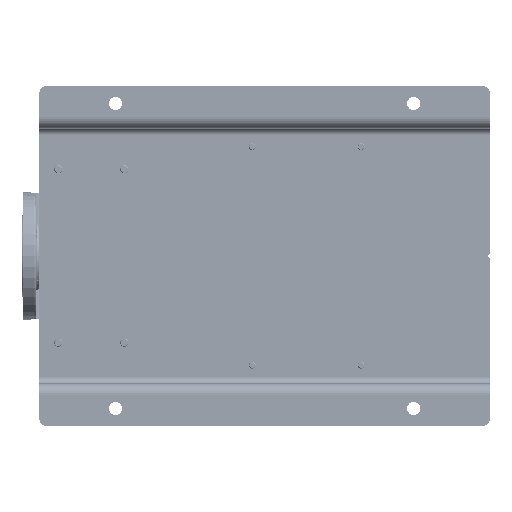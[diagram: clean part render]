
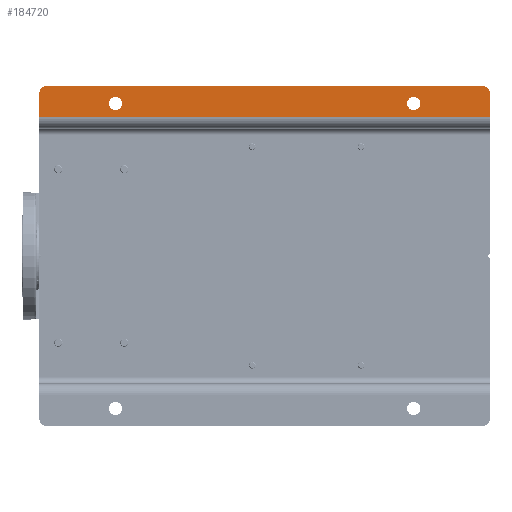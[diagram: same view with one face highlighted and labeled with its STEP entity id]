
A CAD part, front view. The second image highlights one B-rep face of the part: STEP entity #184720.
In plain terms, the highlighted planar face has unit normal (0, -1, 0).
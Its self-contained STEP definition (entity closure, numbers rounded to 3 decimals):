
#373 = DIRECTION ( 'NONE',  ( 0., 0., -1. ) ) ;
#2144 = ORIENTED_EDGE ( 'NONE', *, *, #19099, .T. ) ;
#3478 = CARTESIAN_POINT ( 'NONE',  ( 480., 0., -640. ) ) ;
#5361 = AXIS2_PLACEMENT_3D ( 'NONE', #152611, #7349, #72067 ) ;
#6284 = DIRECTION ( 'NONE',  ( 0., 0., -1. ) ) ;
#7349 = DIRECTION ( 'NONE',  ( 0., 1., 0. ) ) ;
#9344 = ORIENTED_EDGE ( 'NONE', *, *, #35398, .T. ) ;
#10830 = VERTEX_POINT ( 'NONE', #32813 ) ;
#11331 = ORIENTED_EDGE ( 'NONE', *, *, #111582, .T. ) ;
#11628 = ORIENTED_EDGE ( 'NONE', *, *, #128309, .T. ) ;
#12612 = AXIS2_PLACEMENT_3D ( 'NONE', #53446, #119159, #87356 ) ;
#17582 = ORIENTED_EDGE ( 'NONE', *, *, #115669, .T. ) ;
#18237 = CARTESIAN_POINT ( 'NONE',  ( 429., 0., -650. ) ) ;
#19099 = EDGE_CURVE ( 'NONE', #175943, #75369, #171232, .T. ) ;
#19185 = CARTESIAN_POINT ( 'NONE',  ( 429., 0., 0. ) ) ;
#28920 = EDGE_CURVE ( 'NONE', #117556, #168652, #32975, .T. ) ;
#32813 = CARTESIAN_POINT ( 'NONE',  ( 455.5, 0., -110. ) ) ;
#32975 = CIRCLE ( 'NONE', #90490, 10. ) ;
#33249 = CARTESIAN_POINT ( 'NONE',  ( 490., 0., -640. ) ) ;
#35398 = EDGE_CURVE ( 'NONE', #10830, #73870, #137617, .T. ) ;
#36069 = CARTESIAN_POINT ( 'NONE',  ( 465., 0., -110. ) ) ;
#36507 = PLANE ( 'NONE',  #12612 ) ;
#46879 = LINE ( 'NONE', #19185, #73145 ) ;
#47084 = VERTEX_POINT ( 'NONE', #68809 ) ;
#48026 = CARTESIAN_POINT ( 'NONE',  ( 455.5, 0., -540. ) ) ;
#51356 = FACE_BOUND ( 'NONE', #110337, .T. ) ;
#53446 = CARTESIAN_POINT ( 'NONE',  ( 429., 0., -650. ) ) ;
#57017 = CARTESIAN_POINT ( 'NONE',  ( 445., 0., 0. ) ) ;
#58178 = LINE ( 'NONE', #122843, #170916 ) ;
#64977 = LINE ( 'NONE', #18237, #151239 ) ;
#68809 = CARTESIAN_POINT ( 'NONE',  ( 480., 0., -650. ) ) ;
#72067 = DIRECTION ( 'NONE',  ( 0., 0., -1. ) ) ;
#72124 = DIRECTION ( 'NONE',  ( 0., 0., 1. ) ) ;
#72581 = CIRCLE ( 'NONE', #157173, 9.5 ) ;
#73145 = VECTOR ( 'NONE', #112590, 1000. ) ;
#73870 = VERTEX_POINT ( 'NONE', #74809 ) ;
#74809 = CARTESIAN_POINT ( 'NONE',  ( 474.5, 0., -110. ) ) ;
#75369 = VERTEX_POINT ( 'NONE', #48026 ) ;
#80674 = VERTEX_POINT ( 'NONE', #57017 ) ;
#85327 = AXIS2_PLACEMENT_3D ( 'NONE', #36069, #149460, #6284 ) ;
#87356 = DIRECTION ( 'NONE',  ( 0., 0., -1. ) ) ;
#87421 = CARTESIAN_POINT ( 'NONE',  ( 465., 0., -110. ) ) ;
#90490 = AXIS2_PLACEMENT_3D ( 'NONE', #188749, #173881, #109241 ) ;
#94712 = DIRECTION ( 'NONE',  ( 1., 0., 0. ) ) ;
#99325 = ORIENTED_EDGE ( 'NONE', *, *, #151274, .T. ) ;
#102256 = CIRCLE ( 'NONE', #85327, 9.5 ) ;
#108472 = CARTESIAN_POINT ( 'NONE',  ( 445., 0., -650. ) ) ;
#109035 = DIRECTION ( 'NONE',  ( 0., 0., -1. ) ) ;
#109241 = DIRECTION ( 'NONE',  ( 0., 0., -1. ) ) ;
#110337 = EDGE_LOOP ( 'NONE', ( #9344, #17582 ) ) ;
#111582 = EDGE_CURVE ( 'NONE', #47084, #167860, #189911, .T. ) ;
#112590 = DIRECTION ( 'NONE',  ( 1., 0., 0. ) ) ;
#115669 = EDGE_CURVE ( 'NONE', #73870, #10830, #102256, .T. ) ;
#116018 = FACE_OUTER_BOUND ( 'NONE', #156598, .T. ) ;
#116624 = VECTOR ( 'NONE', #72124, 1000. ) ;
#117556 = VERTEX_POINT ( 'NONE', #160597 ) ;
#119159 = DIRECTION ( 'NONE',  ( 0., -1., 0. ) ) ;
#122843 = CARTESIAN_POINT ( 'NONE',  ( 445., 0., -650. ) ) ;
#123564 = EDGE_CURVE ( 'NONE', #80674, #171303, #58178, .T. ) ;
#128309 = EDGE_CURVE ( 'NONE', #171303, #47084, #64977, .T. ) ;
#130650 = ORIENTED_EDGE ( 'NONE', *, *, #28920, .T. ) ;
#130752 = ORIENTED_EDGE ( 'NONE', *, *, #151307, .T. ) ;
#132344 = CARTESIAN_POINT ( 'NONE',  ( 474.5, 0., -540. ) ) ;
#134026 = FACE_BOUND ( 'NONE', #164615, .T. ) ;
#134711 = DIRECTION ( 'NONE',  ( 0., 0., -1. ) ) ;
#137617 = CIRCLE ( 'NONE', #208764, 9.5 ) ;
#149460 = DIRECTION ( 'NONE',  ( 0., 1., 0. ) ) ;
#151239 = VECTOR ( 'NONE', #94712, 1000. ) ;
#151274 = EDGE_CURVE ( 'NONE', #167860, #117556, #152671, .T. ) ;
#151307 = EDGE_CURVE ( 'NONE', #75369, #175943, #72581, .T. ) ;
#152611 = CARTESIAN_POINT ( 'NONE',  ( 465., 0., -540. ) ) ;
#152671 = LINE ( 'NONE', #167524, #116624 ) ;
#156598 = EDGE_LOOP ( 'NONE', ( #189837, #175803, #11628, #11331, #99325, #130650 ) ) ;
#157173 = AXIS2_PLACEMENT_3D ( 'NONE', #199342, #181374, #134711 ) ;
#160597 = CARTESIAN_POINT ( 'NONE',  ( 490., 0., -10. ) ) ;
#164615 = EDGE_LOOP ( 'NONE', ( #130752, #2144 ) ) ;
#167524 = CARTESIAN_POINT ( 'NONE',  ( 490., 0., -650. ) ) ;
#167860 = VERTEX_POINT ( 'NONE', #33249 ) ;
#167955 = DIRECTION ( 'NONE',  ( 0., 0., -1. ) ) ;
#168652 = VERTEX_POINT ( 'NONE', #169338 ) ;
#169338 = CARTESIAN_POINT ( 'NONE',  ( 480., 0., 0. ) ) ;
#170916 = VECTOR ( 'NONE', #109035, 1000. ) ;
#171232 = CIRCLE ( 'NONE', #5361, 9.5 ) ;
#171303 = VERTEX_POINT ( 'NONE', #108472 ) ;
#173881 = DIRECTION ( 'NONE',  ( 0., -1., 0. ) ) ;
#175803 = ORIENTED_EDGE ( 'NONE', *, *, #123564, .T. ) ;
#175943 = VERTEX_POINT ( 'NONE', #132344 ) ;
#176307 = AXIS2_PLACEMENT_3D ( 'NONE', #3478, #178496, #373 ) ;
#178496 = DIRECTION ( 'NONE',  ( 0., -1., 0. ) ) ;
#181374 = DIRECTION ( 'NONE',  ( 0., 1., 0. ) ) ;
#182148 = EDGE_CURVE ( 'NONE', #80674, #168652, #46879, .T. ) ;
#184720 = ADVANCED_FACE ( 'NONE', ( #51356, #134026, #116018 ), #36507, .T. ) ;
#186989 = DIRECTION ( 'NONE',  ( 0., 1., 0. ) ) ;
#188749 = CARTESIAN_POINT ( 'NONE',  ( 480., 0., -10. ) ) ;
#189837 = ORIENTED_EDGE ( 'NONE', *, *, #182148, .F. ) ;
#189911 = CIRCLE ( 'NONE', #176307, 10. ) ;
#199342 = CARTESIAN_POINT ( 'NONE',  ( 465., 0., -540. ) ) ;
#208764 = AXIS2_PLACEMENT_3D ( 'NONE', #87421, #186989, #167955 ) ;
